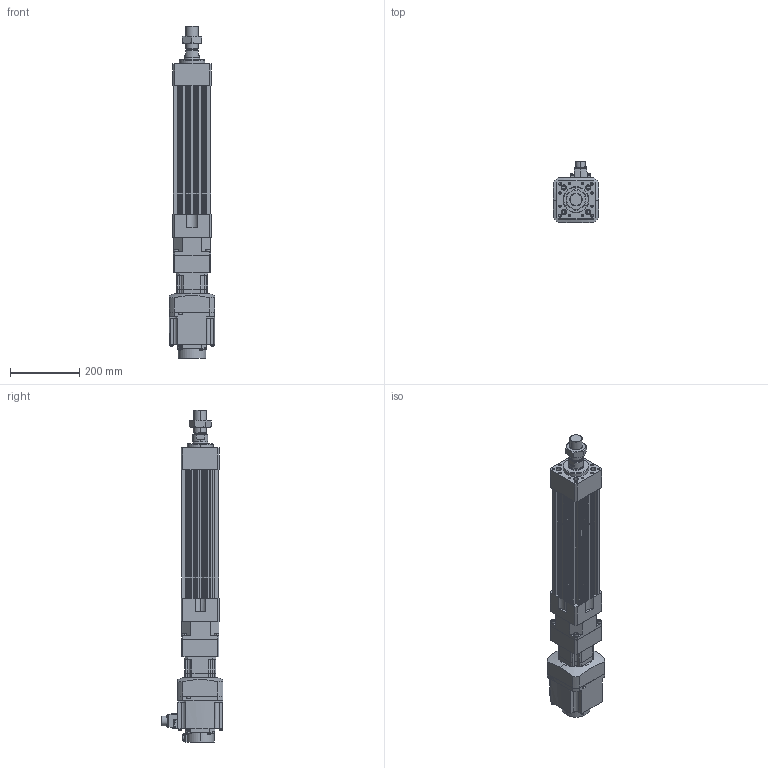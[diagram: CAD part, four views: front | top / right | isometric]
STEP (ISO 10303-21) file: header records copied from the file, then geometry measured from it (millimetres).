
FILE_DESCRIPTION (( 'STEP AP203' ), '1' );
FILE_NAME ('HES110NS(HS)-S200-W010G00-M.STEP', '2023-01-27T04:18:53', ( 'tms' ), ( '' ), 'SwSTEP 2.0', 'SolidWorks 2013', '' );
FILE_SCHEMA (( 'CONFIG_CONTROL_DESIGN' ));
Length unit declared in the file: millimetre
Products named in the file (8): HES110 ROD M ST200; HES110NS(HS)-S200-W010G00-M; HG-SR102; P0401301004; AB090-003[HG-SR102B]; AB0901; HES110-S200-G090; M36X1.5P
Assembly tree (7 placements, depth 3):
  HES110NS(HS)-S200-W010G00-M
    HES110-S200-G090
    HES110 ROD M ST200
    M36X1.5P
    AB090-003[HG-SR102B]
      AB0901
      P0401301004
    HG-SR102
Bounding box: 130 x 177.49 x 958.5 mm (x, y, z)
Volume: 6176094.5 mm3; surface area: 804812.1 mm2
Topology: 4 solids, 15 shells, 1197 faces, 3018 edges, 1947 vertices
Faces by surface type: plane 550, cylinder 535, cone 100, bspline 8, torus 4
Entity records: 37761 total; most frequent: CARTESIAN_POINT 7330, DIRECTION 6511, ORIENTED_EDGE 5944, EDGE_CURVE 2982, AXIS2_PLACEMENT_3D 2399, VERTEX_POINT 1947, VECTOR 1713, LINE 1713
